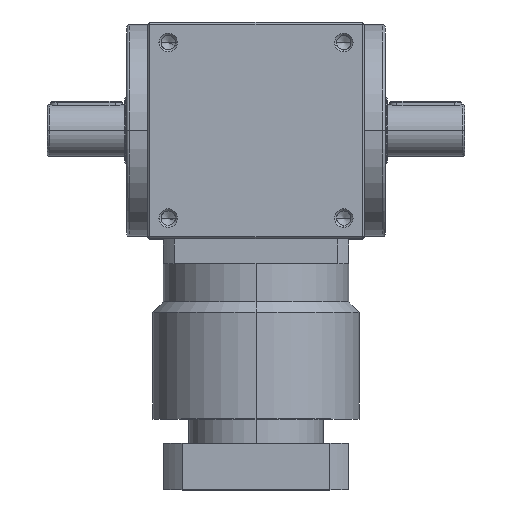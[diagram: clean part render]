
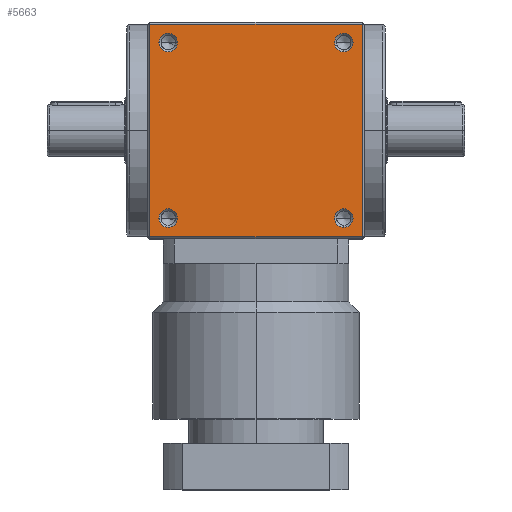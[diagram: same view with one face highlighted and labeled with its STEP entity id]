
A CAD part, top view. The second image highlights one B-rep face of the part: STEP entity #5663.
In plain terms, the highlighted planar face has unit normal (0, 0, 1).
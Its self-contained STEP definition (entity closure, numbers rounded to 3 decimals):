
#166 = DIRECTION ( 'NONE',  ( 0., 1., 0. ) ) ;
#408 = CIRCLE ( 'NONE', #6684, 9. ) ;
#502 = EDGE_CURVE ( 'NONE', #8530, #3214, #7391, .T. ) ;
#740 = EDGE_CURVE ( 'NONE', #10108, #1634, #10048, .T. ) ;
#796 = EDGE_CURVE ( 'NONE', #937, #1908, #11516, .T. ) ;
#937 = VERTEX_POINT ( 'NONE', #9798 ) ;
#1313 = AXIS2_PLACEMENT_3D ( 'NONE', #10430, #10418, #10404 ) ;
#1489 = LINE ( 'NONE', #7090, #7246 ) ;
#1634 = VERTEX_POINT ( 'NONE', #8687 ) ;
#1800 = CARTESIAN_POINT ( 'NONE',  ( 0., 103., 105. ) ) ;
#1908 = VERTEX_POINT ( 'NONE', #12550 ) ;
#1916 = DIRECTION ( 'NONE',  ( -1., 0., 0. ) ) ;
#1969 = EDGE_LOOP ( 'NONE', ( #11315, #12280 ) ) ;
#2032 = DIRECTION ( 'NONE',  ( 1., 0., 0. ) ) ;
#2048 = DIRECTION ( 'NONE',  ( 0., 0., 1. ) ) ;
#2063 = CARTESIAN_POINT ( 'NONE',  ( -85., -85., 105. ) ) ;
#2123 = AXIS2_PLACEMENT_3D ( 'NONE', #3126, #3112, #3110 ) ;
#2137 = EDGE_CURVE ( 'NONE', #2280, #4973, #7233, .T. ) ;
#2280 = VERTEX_POINT ( 'NONE', #3111 ) ;
#2356 = AXIS2_PLACEMENT_3D ( 'NONE', #8515, #8511, #8498 ) ;
#2634 = EDGE_LOOP ( 'NONE', ( #8211, #6306, #6027, #4465 ) ) ;
#2896 = AXIS2_PLACEMENT_3D ( 'NONE', #9842, #9841, #9827 ) ;
#3110 = DIRECTION ( 'NONE',  ( 1., 0., 0. ) ) ;
#3111 = CARTESIAN_POINT ( 'NONE',  ( -76., 85., 105. ) ) ;
#3112 = DIRECTION ( 'NONE',  ( 0., 0., 1. ) ) ;
#3126 = CARTESIAN_POINT ( 'NONE',  ( -85., -85., 105. ) ) ;
#3139 = EDGE_CURVE ( 'NONE', #1634, #10108, #408, .T. ) ;
#3214 = VERTEX_POINT ( 'NONE', #11754 ) ;
#3232 = CARTESIAN_POINT ( 'NONE',  ( 85., -76., 105. ) ) ;
#3308 = VERTEX_POINT ( 'NONE', #10515 ) ;
#3384 = EDGE_CURVE ( 'NONE', #8144, #3308, #5769, .T. ) ;
#3576 = CARTESIAN_POINT ( 'NONE',  ( -76., -85., 105. ) ) ;
#3830 = EDGE_CURVE ( 'NONE', #3308, #8144, #11084, .T. ) ;
#3845 = EDGE_CURVE ( 'NONE', #1908, #8530, #1489, .T. ) ;
#3894 = CARTESIAN_POINT ( 'NONE',  ( -103., 0., 105. ) ) ;
#4322 = VERTEX_POINT ( 'NONE', #3576 ) ;
#4465 = ORIENTED_EDGE ( 'NONE', *, *, #3845, .F. ) ;
#4586 = CARTESIAN_POINT ( 'NONE',  ( -85., 85., 105. ) ) ;
#4642 = EDGE_CURVE ( 'NONE', #4322, #7082, #5331, .T. ) ;
#4871 = CARTESIAN_POINT ( 'NONE',  ( -94., 85., 105. ) ) ;
#4973 = VERTEX_POINT ( 'NONE', #4871 ) ;
#5331 = CIRCLE ( 'NONE', #7182, 9. ) ;
#5663 = ADVANCED_FACE ( 'NONE', ( #9048, #11142, #10307, #10751, #9997 ), #8655, .F. ) ;
#5769 = CIRCLE ( 'NONE', #2896, 9. ) ;
#6027 = ORIENTED_EDGE ( 'NONE', *, *, #502, .F. ) ;
#6306 = ORIENTED_EDGE ( 'NONE', *, *, #11882, .T. ) ;
#6366 = AXIS2_PLACEMENT_3D ( 'NONE', #10315, #11116, #11100 ) ;
#6650 = DIRECTION ( 'NONE',  ( 1., 0., 0. ) ) ;
#6684 = AXIS2_PLACEMENT_3D ( 'NONE', #11892, #11875, #11866 ) ;
#6864 = EDGE_LOOP ( 'NONE', ( #12409, #10100 ) ) ;
#6998 = EDGE_LOOP ( 'NONE', ( #10706, #11237 ) ) ;
#7050 = DIRECTION ( 'NONE',  ( 0., -1., 0. ) ) ;
#7058 = DIRECTION ( 'NONE',  ( 0., 0., 1. ) ) ;
#7072 = CARTESIAN_POINT ( 'NONE',  ( 85., 85., 105. ) ) ;
#7082 = VERTEX_POINT ( 'NONE', #7265 ) ;
#7090 = CARTESIAN_POINT ( 'NONE',  ( 0., -103., 105. ) ) ;
#7182 = AXIS2_PLACEMENT_3D ( 'NONE', #2063, #2048, #2032 ) ;
#7233 = CIRCLE ( 'NONE', #8622, 9. ) ;
#7236 = DIRECTION ( 'NONE',  ( -1., 0., 0. ) ) ;
#7246 = VECTOR ( 'NONE', #7236, 1000. ) ;
#7251 = EDGE_LOOP ( 'NONE', ( #10412, #10542 ) ) ;
#7265 = CARTESIAN_POINT ( 'NONE',  ( -94., -85., 105. ) ) ;
#7391 = LINE ( 'NONE', #3894, #8900 ) ;
#8144 = VERTEX_POINT ( 'NONE', #11872 ) ;
#8211 = ORIENTED_EDGE ( 'NONE', *, *, #796, .F. ) ;
#8498 = DIRECTION ( 'NONE',  ( -1., 0., 0. ) ) ;
#8511 = DIRECTION ( 'NONE',  ( 0., 0., -1. ) ) ;
#8515 = CARTESIAN_POINT ( 'NONE',  ( 0., 0., 105. ) ) ;
#8530 = VERTEX_POINT ( 'NONE', #10171 ) ;
#8622 = AXIS2_PLACEMENT_3D ( 'NONE', #4586, #11483, #6650 ) ;
#8655 = PLANE ( 'NONE',  #2356 ) ;
#8687 = CARTESIAN_POINT ( 'NONE',  ( 85., -94., 105. ) ) ;
#8900 = VECTOR ( 'NONE', #166, 1000. ) ;
#9048 = FACE_BOUND ( 'NONE', #7251, .T. ) ;
#9261 = LINE ( 'NONE', #1800, #9274 ) ;
#9274 = VECTOR ( 'NONE', #1916, 1000. ) ;
#9510 = CIRCLE ( 'NONE', #2123, 9. ) ;
#9798 = CARTESIAN_POINT ( 'NONE',  ( 103., 103., 105. ) ) ;
#9827 = DIRECTION ( 'NONE',  ( 0., -1., 0. ) ) ;
#9841 = DIRECTION ( 'NONE',  ( 0., 0., 1. ) ) ;
#9842 = CARTESIAN_POINT ( 'NONE',  ( 85., 85., 105. ) ) ;
#9997 = FACE_OUTER_BOUND ( 'NONE', #2634, .T. ) ;
#10048 = CIRCLE ( 'NONE', #6366, 9. ) ;
#10100 = ORIENTED_EDGE ( 'NONE', *, *, #11141, .F. ) ;
#10108 = VERTEX_POINT ( 'NONE', #3232 ) ;
#10161 = EDGE_CURVE ( 'NONE', #7082, #4322, #9510, .T. ) ;
#10171 = CARTESIAN_POINT ( 'NONE',  ( -103., -103., 105. ) ) ;
#10307 = FACE_BOUND ( 'NONE', #1969, .T. ) ;
#10315 = CARTESIAN_POINT ( 'NONE',  ( 85., -85., 105. ) ) ;
#10404 = DIRECTION ( 'NONE',  ( 1., 0., 0. ) ) ;
#10412 = ORIENTED_EDGE ( 'NONE', *, *, #3139, .F. ) ;
#10418 = DIRECTION ( 'NONE',  ( 0., 0., 1. ) ) ;
#10430 = CARTESIAN_POINT ( 'NONE',  ( -85., 85., 105. ) ) ;
#10515 = CARTESIAN_POINT ( 'NONE',  ( 85., 76., 105. ) ) ;
#10542 = ORIENTED_EDGE ( 'NONE', *, *, #740, .F. ) ;
#10572 = CIRCLE ( 'NONE', #1313, 9. ) ;
#10592 = CARTESIAN_POINT ( 'NONE',  ( 103., 0., 105. ) ) ;
#10616 = DIRECTION ( 'NONE',  ( 0., -1., 0. ) ) ;
#10706 = ORIENTED_EDGE ( 'NONE', *, *, #4642, .F. ) ;
#10751 = FACE_BOUND ( 'NONE', #6864, .T. ) ;
#10965 = AXIS2_PLACEMENT_3D ( 'NONE', #7072, #7058, #7050 ) ;
#11084 = CIRCLE ( 'NONE', #10965, 9. ) ;
#11100 = DIRECTION ( 'NONE',  ( 0., -1., 0. ) ) ;
#11116 = DIRECTION ( 'NONE',  ( 0., 0., 1. ) ) ;
#11141 = EDGE_CURVE ( 'NONE', #4973, #2280, #10572, .T. ) ;
#11142 = FACE_BOUND ( 'NONE', #6998, .T. ) ;
#11237 = ORIENTED_EDGE ( 'NONE', *, *, #10161, .F. ) ;
#11315 = ORIENTED_EDGE ( 'NONE', *, *, #3830, .F. ) ;
#11483 = DIRECTION ( 'NONE',  ( 0., 0., 1. ) ) ;
#11516 = LINE ( 'NONE', #10592, #11639 ) ;
#11639 = VECTOR ( 'NONE', #10616, 1000. ) ;
#11754 = CARTESIAN_POINT ( 'NONE',  ( -103., 103., 105. ) ) ;
#11866 = DIRECTION ( 'NONE',  ( 0., -1., 0. ) ) ;
#11872 = CARTESIAN_POINT ( 'NONE',  ( 85., 94., 105. ) ) ;
#11875 = DIRECTION ( 'NONE',  ( 0., 0., 1. ) ) ;
#11882 = EDGE_CURVE ( 'NONE', #937, #3214, #9261, .T. ) ;
#11892 = CARTESIAN_POINT ( 'NONE',  ( 85., -85., 105. ) ) ;
#12280 = ORIENTED_EDGE ( 'NONE', *, *, #3384, .F. ) ;
#12409 = ORIENTED_EDGE ( 'NONE', *, *, #2137, .F. ) ;
#12550 = CARTESIAN_POINT ( 'NONE',  ( 103., -103., 105. ) ) ;
